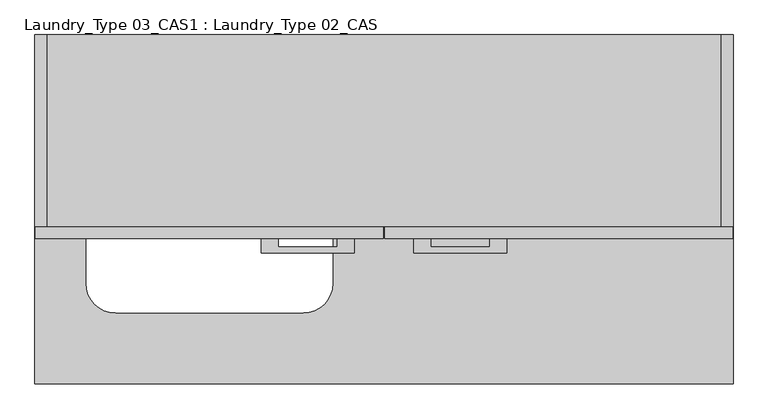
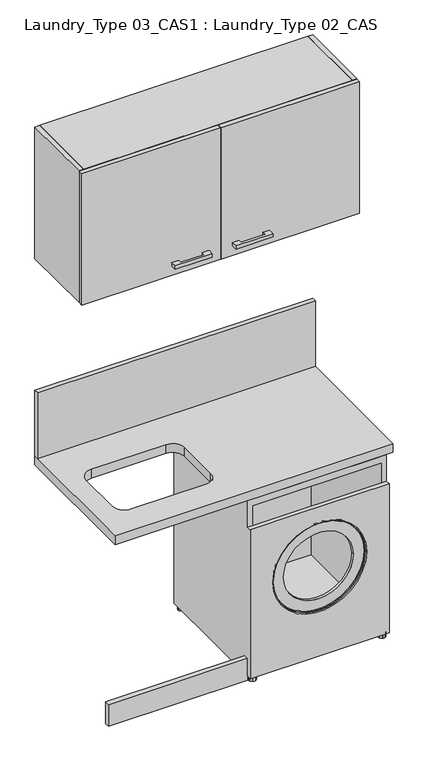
"""IFC4 building model written with IfcOpenShell, lengths in millimetres: furniture geometry, Laundry_Type 03_CAS1 : Laundry_Type 02_CAS."""

from ifc_helpers import new_model, si_unit, point, frame, frame_2d, origin, origin_with_axes, place, context, project, spatial, polyline, circle_curve, ellipse_curve, trimmed, segment, composite_curve, outline, extrude, source, transform, mapped, element, save
from ifc_brep_helpers import plane_surface, revolved_surface, advanced_brep


def laundry_type_03_cas1_laundry_type_02_cas_24b96e6a(model_context):
    return source(origin(), model_context, "Body", "SolidModel", [
        extrude(outline(composite_curve([segment(trimmed(circle_curve(frame_2d((1985.0, 20.085876)), 15.0), [point((1971.5385186, 26.7031653))], [point((1978.3827106, 33.5473574))], False, "CARTESIAN"), True, "CONTINUOUS"), segment(polyline([(1978.3827106, 33.5473574), (1979.3852847, 31.8108481)]), True, "CONTINUOUS"), segment(trimmed(circle_curve(frame_2d((1985.0, 20.085876)), 13.0), [point((1979.3852847, 31.8108481))], [point((1980.6793959, 32.3468865))], False, "CARTESIAN"), True, "CONTINUOUS"), segment(polyline([(1980.6793959, 32.3468865), (1980.1604254, 34.2837109)]), True, "CONTINUOUS"), segment(trimmed(circle_curve(frame_2d((1985.0, 20.085876)), 15.0), [point((1980.1604254, 34.2837109))], [point((1989.8395746, 34.2837109))], False, "CARTESIAN"), True, "CONTINUOUS"), segment(polyline([(1989.8395746, 34.2837109), (1989.3206041, 32.3468865)]), True, "CONTINUOUS"), segment(trimmed(circle_curve(frame_2d((1985.0, 20.085876)), 13.0), [point((1989.3206041, 32.3468865))], [point((1990.6147153, 31.8108481))], False, "CARTESIAN"), True, "CONTINUOUS"), segment(polyline([(1990.6147153, 31.8108481), (1991.6172894, 33.5473574)]), True, "CONTINUOUS"), segment(trimmed(circle_curve(frame_2d((1985.0, 20.085876)), 15.0), [point((1991.6172894, 33.5473574))], [point((1998.4614814, 26.7031653))], False, "CARTESIAN"), True, "CONTINUOUS"), segment(polyline([(1998.4614814, 26.7031653), (1996.7249722, 25.7005913)]), True, "CONTINUOUS"), segment(trimmed(circle_curve(frame_2d((1985.0, 20.085876)), 13.0), [point((1996.7249722, 25.7005913))], [point((1997.2610106, 24.40648))], False, "CARTESIAN"), True, "CONTINUOUS"), segment(polyline([(1997.2610106, 24.40648), (1999.197835, 24.9254506)]), True, "CONTINUOUS"), segment(trimmed(circle_curve(frame_2d((1985.0, 20.085876)), 15.0), [point((1999.197835, 24.9254506))], [point((1999.197835, 15.2463014))], False, "CARTESIAN"), True, "CONTINUOUS"), segment(polyline([(1999.197835, 15.2463014), (1997.2610106, 15.7652719)]), True, "CONTINUOUS"), segment(trimmed(circle_curve(frame_2d((1985.0, 20.085876)), 13.0), [point((1997.2610106, 15.7652719))], [point((1996.7249722, 14.4711607))], False, "CARTESIAN"), True, "CONTINUOUS"), segment(polyline([(1996.7249722, 14.4711607), (1998.4614814, 13.4685866)]), True, "CONTINUOUS"), segment(trimmed(circle_curve(frame_2d((1985.0, 20.085876)), 15.0), [point((1998.4614814, 13.4685866))], [point((1991.6172894, 6.6243946))], False, "CARTESIAN"), True, "CONTINUOUS"), segment(polyline([(1991.6172894, 6.6243946), (1990.6147153, 8.3609038)]), True, "CONTINUOUS"), segment(trimmed(circle_curve(frame_2d((1985.0, 20.085876)), 13.0), [point((1990.6147153, 8.3609038))], [point((1989.3206041, 7.8248654))], False, "CARTESIAN"), True, "CONTINUOUS"), segment(polyline([(1989.3206041, 7.8248654), (1989.8395746, 5.888041)]), True, "CONTINUOUS"), segment(trimmed(circle_curve(frame_2d((1985.0, 20.085876)), 15.0), [point((1989.8395746, 5.888041))], [point((1980.1604254, 5.888041))], False, "CARTESIAN"), True, "CONTINUOUS"), segment(polyline([(1980.1604254, 5.888041), (1980.6793959, 7.8248654)]), True, "CONTINUOUS"), segment(trimmed(circle_curve(frame_2d((1985.0, 20.085876)), 13.0), [point((1980.6793959, 7.8248654))], [point((1979.3852847, 8.3609038))], False, "CARTESIAN"), True, "CONTINUOUS"), segment(polyline([(1979.3852847, 8.3609038), (1978.3827106, 6.6243946)]), True, "CONTINUOUS"), segment(trimmed(circle_curve(frame_2d((1985.0, 20.085876)), 15.0), [point((1978.3827106, 6.6243946))], [point((1971.5385186, 13.4685866))], False, "CARTESIAN"), True, "CONTINUOUS"), segment(polyline([(1971.5385186, 13.4685866), (1973.2750278, 14.4711607)]), True, "CONTINUOUS"), segment(trimmed(circle_curve(frame_2d((1985.0, 20.085876)), 13.0), [point((1973.2750278, 14.4711607))], [point((1972.7389894, 15.7652719))], False, "CARTESIAN"), True, "CONTINUOUS"), segment(polyline([(1972.7389894, 15.7652719), (1970.802165, 15.2463014)]), True, "CONTINUOUS"), segment(trimmed(circle_curve(frame_2d((1985.0, 20.085876)), 15.0), [point((1970.802165, 15.2463014))], [point((1970.802165, 24.9254506))], False, "CARTESIAN"), True, "CONTINUOUS"), segment(polyline([(1970.802165, 24.9254506), (1972.7389894, 24.40648)]), True, "CONTINUOUS"), segment(trimmed(circle_curve(frame_2d((1985.0, 20.085876)), 13.0), [point((1972.7389894, 24.40648))], [point((1973.2750278, 25.7005913))], False, "CARTESIAN"), True, "CONTINUOUS"), segment(polyline([(1973.2750278, 25.7005913), (1971.5385186, 26.7031653)]), True, "CONTINUOUS")], self_intersect=False)), origin_with_axes(), (0.0, 0.0, 1.0), 20.0),
        extrude(outline(composite_curve([segment(trimmed(circle_curve(frame_2d((2545.0, 20.085876)), 15.0), [point((2531.5385186, 26.7031653))], [point((2538.3827106, 33.5473574))], False, "CARTESIAN"), True, "CONTINUOUS"), segment(polyline([(2538.3827106, 33.5473574), (2539.3852847, 31.8108481)]), True, "CONTINUOUS"), segment(trimmed(circle_curve(frame_2d((2545.0, 20.085876)), 13.0), [point((2539.3852847, 31.8108481))], [point((2540.6793959, 32.3468865))], False, "CARTESIAN"), True, "CONTINUOUS"), segment(polyline([(2540.6793959, 32.3468865), (2540.1604254, 34.2837109)]), True, "CONTINUOUS"), segment(trimmed(circle_curve(frame_2d((2545.0, 20.085876)), 15.0), [point((2540.1604254, 34.2837109))], [point((2549.8395746, 34.2837109))], False, "CARTESIAN"), True, "CONTINUOUS"), segment(polyline([(2549.8395746, 34.2837109), (2549.3206041, 32.3468865)]), True, "CONTINUOUS"), segment(trimmed(circle_curve(frame_2d((2545.0, 20.085876)), 13.0), [point((2549.3206041, 32.3468865))], [point((2550.6147153, 31.8108481))], False, "CARTESIAN"), True, "CONTINUOUS"), segment(polyline([(2550.6147153, 31.8108481), (2551.6172894, 33.5473574)]), True, "CONTINUOUS"), segment(trimmed(circle_curve(frame_2d((2545.0, 20.085876)), 15.0), [point((2551.6172894, 33.5473574))], [point((2558.4614814, 26.7031653))], False, "CARTESIAN"), True, "CONTINUOUS"), segment(polyline([(2558.4614814, 26.7031653), (2556.7249722, 25.7005913)]), True, "CONTINUOUS"), segment(trimmed(circle_curve(frame_2d((2545.0, 20.085876)), 13.0), [point((2556.7249722, 25.7005913))], [point((2557.2610106, 24.40648))], False, "CARTESIAN"), True, "CONTINUOUS"), segment(polyline([(2557.2610106, 24.40648), (2559.197835, 24.9254506)]), True, "CONTINUOUS"), segment(trimmed(circle_curve(frame_2d((2545.0, 20.085876)), 15.0), [point((2559.197835, 24.9254506))], [point((2559.197835, 15.2463014))], False, "CARTESIAN"), True, "CONTINUOUS"), segment(polyline([(2559.197835, 15.2463014), (2557.2610106, 15.7652719)]), True, "CONTINUOUS"), segment(trimmed(circle_curve(frame_2d((2545.0, 20.085876)), 13.0), [point((2557.2610106, 15.7652719))], [point((2556.7249722, 14.4711607))], False, "CARTESIAN"), True, "CONTINUOUS"), segment(polyline([(2556.7249722, 14.4711607), (2558.4614814, 13.4685866)]), True, "CONTINUOUS"), segment(trimmed(circle_curve(frame_2d((2545.0, 20.085876)), 15.0), [point((2558.4614814, 13.4685866))], [point((2551.6172894, 6.6243946))], False, "CARTESIAN"), True, "CONTINUOUS"), segment(polyline([(2551.6172894, 6.6243946), (2550.6147153, 8.3609038)]), True, "CONTINUOUS"), segment(trimmed(circle_curve(frame_2d((2545.0, 20.085876)), 13.0), [point((2550.6147153, 8.3609038))], [point((2549.3206041, 7.8248654))], False, "CARTESIAN"), True, "CONTINUOUS"), segment(polyline([(2549.3206041, 7.8248654), (2549.8395746, 5.888041)]), True, "CONTINUOUS"), segment(trimmed(circle_curve(frame_2d((2545.0, 20.085876)), 15.0), [point((2549.8395746, 5.888041))], [point((2540.1604254, 5.888041))], False, "CARTESIAN"), True, "CONTINUOUS"), segment(polyline([(2540.1604254, 5.888041), (2540.6793959, 7.8248654)]), True, "CONTINUOUS"), segment(trimmed(circle_curve(frame_2d((2545.0, 20.085876)), 13.0), [point((2540.6793959, 7.8248654))], [point((2539.3852847, 8.3609038))], False, "CARTESIAN"), True, "CONTINUOUS"), segment(polyline([(2539.3852847, 8.3609038), (2538.3827106, 6.6243946)]), True, "CONTINUOUS"), segment(trimmed(circle_curve(frame_2d((2545.0, 20.085876)), 15.0), [point((2538.3827106, 6.6243946))], [point((2531.5385186, 13.4685866))], False, "CARTESIAN"), True, "CONTINUOUS"), segment(polyline([(2531.5385186, 13.4685866), (2533.2750278, 14.4711607)]), True, "CONTINUOUS"), segment(trimmed(circle_curve(frame_2d((2545.0, 20.085876)), 13.0), [point((2533.2750278, 14.4711607))], [point((2532.7389894, 15.7652719))], False, "CARTESIAN"), True, "CONTINUOUS"), segment(polyline([(2532.7389894, 15.7652719), (2530.802165, 15.2463014)]), True, "CONTINUOUS"), segment(trimmed(circle_curve(frame_2d((2545.0, 20.085876)), 15.0), [point((2530.802165, 15.2463014))], [point((2530.802165, 24.9254506))], False, "CARTESIAN"), True, "CONTINUOUS"), segment(polyline([(2530.802165, 24.9254506), (2532.7389894, 24.40648)]), True, "CONTINUOUS"), segment(trimmed(circle_curve(frame_2d((2545.0, 20.085876)), 13.0), [point((2532.7389894, 24.40648))], [point((2533.2750278, 25.7005913))], False, "CARTESIAN"), True, "CONTINUOUS"), segment(polyline([(2533.2750278, 25.7005913), (2531.5385186, 26.7031653)]), True, "CONTINUOUS")], self_intersect=False)), origin_with_axes(), (0.0, 0.0, 1.0), 20.0),
        extrude(outline(composite_curve([segment(trimmed(circle_curve(frame_2d((2545.0, 550.085876)), 15.0), [point((2531.5385186, 556.7031653))], [point((2538.3827106, 563.5473574))], False, "CARTESIAN"), True, "CONTINUOUS"), segment(polyline([(2538.3827106, 563.5473574), (2539.3852847, 561.8108481)]), True, "CONTINUOUS"), segment(trimmed(circle_curve(frame_2d((2545.0, 550.085876)), 13.0), [point((2539.3852847, 561.8108481))], [point((2540.6793959, 562.3468865))], False, "CARTESIAN"), True, "CONTINUOUS"), segment(polyline([(2540.6793959, 562.3468865), (2540.1604254, 564.2837109)]), True, "CONTINUOUS"), segment(trimmed(circle_curve(frame_2d((2545.0, 550.085876)), 15.0), [point((2540.1604254, 564.2837109))], [point((2549.8395746, 564.2837109))], False, "CARTESIAN"), True, "CONTINUOUS"), segment(polyline([(2549.8395746, 564.2837109), (2549.3206041, 562.3468865)]), True, "CONTINUOUS"), segment(trimmed(circle_curve(frame_2d((2545.0, 550.085876)), 13.0), [point((2549.3206041, 562.3468865))], [point((2550.6147153, 561.8108481))], False, "CARTESIAN"), True, "CONTINUOUS"), segment(polyline([(2550.6147153, 561.8108481), (2551.6172894, 563.5473574)]), True, "CONTINUOUS"), segment(trimmed(circle_curve(frame_2d((2545.0, 550.085876)), 15.0), [point((2551.6172894, 563.5473574))], [point((2558.4614814, 556.7031653))], False, "CARTESIAN"), True, "CONTINUOUS"), segment(polyline([(2558.4614814, 556.7031653), (2556.7249722, 555.7005913)]), True, "CONTINUOUS"), segment(trimmed(circle_curve(frame_2d((2545.0, 550.085876)), 13.0), [point((2556.7249722, 555.7005913))], [point((2557.2610106, 554.40648))], False, "CARTESIAN"), True, "CONTINUOUS"), segment(polyline([(2557.2610106, 554.40648), (2559.197835, 554.9254506)]), True, "CONTINUOUS"), segment(trimmed(circle_curve(frame_2d((2545.0, 550.085876)), 15.0), [point((2559.197835, 554.9254506))], [point((2559.197835, 545.2463014))], False, "CARTESIAN"), True, "CONTINUOUS"), segment(polyline([(2559.197835, 545.2463014), (2557.2610106, 545.7652719)]), True, "CONTINUOUS"), segment(trimmed(circle_curve(frame_2d((2545.0, 550.085876)), 13.0), [point((2557.2610106, 545.7652719))], [point((2556.7249722, 544.4711607))], False, "CARTESIAN"), True, "CONTINUOUS"), segment(polyline([(2556.7249722, 544.4711607), (2558.4614814, 543.4685866)]), True, "CONTINUOUS"), segment(trimmed(circle_curve(frame_2d((2545.0, 550.085876)), 15.0), [point((2558.4614814, 543.4685866))], [point((2551.6172894, 536.6243946))], False, "CARTESIAN"), True, "CONTINUOUS"), segment(polyline([(2551.6172894, 536.6243946), (2550.6147153, 538.3609038)]), True, "CONTINUOUS"), segment(trimmed(circle_curve(frame_2d((2545.0, 550.085876)), 13.0), [point((2550.6147153, 538.3609038))], [point((2549.3206041, 537.8248654))], False, "CARTESIAN"), True, "CONTINUOUS"), segment(polyline([(2549.3206041, 537.8248654), (2549.8395746, 535.888041)]), True, "CONTINUOUS"), segment(trimmed(circle_curve(frame_2d((2545.0, 550.085876)), 15.0), [point((2549.8395746, 535.888041))], [point((2540.1604254, 535.888041))], False, "CARTESIAN"), True, "CONTINUOUS"), segment(polyline([(2540.1604254, 535.888041), (2540.6793959, 537.8248654)]), True, "CONTINUOUS"), segment(trimmed(circle_curve(frame_2d((2545.0, 550.085876)), 13.0), [point((2540.6793959, 537.8248654))], [point((2539.3852847, 538.3609038))], False, "CARTESIAN"), True, "CONTINUOUS"), segment(polyline([(2539.3852847, 538.3609038), (2538.3827106, 536.6243946)]), True, "CONTINUOUS"), segment(trimmed(circle_curve(frame_2d((2545.0, 550.085876)), 15.0), [point((2538.3827106, 536.6243946))], [point((2531.5385186, 543.4685866))], False, "CARTESIAN"), True, "CONTINUOUS"), segment(polyline([(2531.5385186, 543.4685866), (2533.2750278, 544.4711607)]), True, "CONTINUOUS"), segment(trimmed(circle_curve(frame_2d((2545.0, 550.085876)), 13.0), [point((2533.2750278, 544.4711607))], [point((2532.7389894, 545.7652719))], False, "CARTESIAN"), True, "CONTINUOUS"), segment(polyline([(2532.7389894, 545.7652719), (2530.802165, 545.2463014)]), True, "CONTINUOUS"), segment(trimmed(circle_curve(frame_2d((2545.0, 550.085876)), 15.0), [point((2530.802165, 545.2463014))], [point((2530.802165, 554.9254506))], False, "CARTESIAN"), True, "CONTINUOUS"), segment(polyline([(2530.802165, 554.9254506), (2532.7389894, 554.40648)]), True, "CONTINUOUS"), segment(trimmed(circle_curve(frame_2d((2545.0, 550.085876)), 13.0), [point((2532.7389894, 554.40648))], [point((2533.2750278, 555.7005913))], False, "CARTESIAN"), True, "CONTINUOUS"), segment(polyline([(2533.2750278, 555.7005913), (2531.5385186, 556.7031653)]), True, "CONTINUOUS")], self_intersect=False)), origin_with_axes(), (0.0, 0.0, 1.0), 20.0),
        extrude(outline(composite_curve([segment(trimmed(circle_curve(frame_2d((1985.0, 550.085876)), 15.0), [point((1971.5385186, 556.7031653))], [point((1978.3827106, 563.5473574))], False, "CARTESIAN"), True, "CONTINUOUS"), segment(polyline([(1978.3827106, 563.5473574), (1979.3852847, 561.8108481)]), True, "CONTINUOUS"), segment(trimmed(circle_curve(frame_2d((1985.0, 550.085876)), 13.0), [point((1979.3852847, 561.8108481))], [point((1980.6793959, 562.3468865))], False, "CARTESIAN"), True, "CONTINUOUS"), segment(polyline([(1980.6793959, 562.3468865), (1980.1604254, 564.2837109)]), True, "CONTINUOUS"), segment(trimmed(circle_curve(frame_2d((1985.0, 550.085876)), 15.0), [point((1980.1604254, 564.2837109))], [point((1989.8395746, 564.2837109))], False, "CARTESIAN"), True, "CONTINUOUS"), segment(polyline([(1989.8395746, 564.2837109), (1989.3206041, 562.3468865)]), True, "CONTINUOUS"), segment(trimmed(circle_curve(frame_2d((1985.0, 550.085876)), 13.0), [point((1989.3206041, 562.3468865))], [point((1990.6147153, 561.8108481))], False, "CARTESIAN"), True, "CONTINUOUS"), segment(polyline([(1990.6147153, 561.8108481), (1991.6172894, 563.5473574)]), True, "CONTINUOUS"), segment(trimmed(circle_curve(frame_2d((1985.0, 550.085876)), 15.0), [point((1991.6172894, 563.5473574))], [point((1998.4614814, 556.7031653))], False, "CARTESIAN"), True, "CONTINUOUS"), segment(polyline([(1998.4614814, 556.7031653), (1996.7249722, 555.7005913)]), True, "CONTINUOUS"), segment(trimmed(circle_curve(frame_2d((1985.0, 550.085876)), 13.0), [point((1996.7249722, 555.7005913))], [point((1997.2610106, 554.40648))], False, "CARTESIAN"), True, "CONTINUOUS"), segment(polyline([(1997.2610106, 554.40648), (1999.197835, 554.9254506)]), True, "CONTINUOUS"), segment(trimmed(circle_curve(frame_2d((1985.0, 550.085876)), 15.0), [point((1999.197835, 554.9254506))], [point((1999.197835, 545.2463014))], False, "CARTESIAN"), True, "CONTINUOUS"), segment(polyline([(1999.197835, 545.2463014), (1997.2610106, 545.7652719)]), True, "CONTINUOUS"), segment(trimmed(circle_curve(frame_2d((1985.0, 550.085876)), 13.0), [point((1997.2610106, 545.7652719))], [point((1996.7249722, 544.4711607))], False, "CARTESIAN"), True, "CONTINUOUS"), segment(polyline([(1996.7249722, 544.4711607), (1998.4614814, 543.4685866)]), True, "CONTINUOUS"), segment(trimmed(circle_curve(frame_2d((1985.0, 550.085876)), 15.0), [point((1998.4614814, 543.4685866))], [point((1991.6172894, 536.6243946))], False, "CARTESIAN"), True, "CONTINUOUS"), segment(polyline([(1991.6172894, 536.6243946), (1990.6147153, 538.3609038)]), True, "CONTINUOUS"), segment(trimmed(circle_curve(frame_2d((1985.0, 550.085876)), 13.0), [point((1990.6147153, 538.3609038))], [point((1989.3206041, 537.8248654))], False, "CARTESIAN"), True, "CONTINUOUS"), segment(polyline([(1989.3206041, 537.8248654), (1989.8395746, 535.888041)]), True, "CONTINUOUS"), segment(trimmed(circle_curve(frame_2d((1985.0, 550.085876)), 15.0), [point((1989.8395746, 535.888041))], [point((1980.1604254, 535.888041))], False, "CARTESIAN"), True, "CONTINUOUS"), segment(polyline([(1980.1604254, 535.888041), (1980.6793959, 537.8248654)]), True, "CONTINUOUS"), segment(trimmed(circle_curve(frame_2d((1985.0, 550.085876)), 13.0), [point((1980.6793959, 537.8248654))], [point((1979.3852847, 538.3609038))], False, "CARTESIAN"), True, "CONTINUOUS"), segment(polyline([(1979.3852847, 538.3609038), (1978.3827106, 536.6243946)]), True, "CONTINUOUS"), segment(trimmed(circle_curve(frame_2d((1985.0, 550.085876)), 15.0), [point((1978.3827106, 536.6243946))], [point((1971.5385186, 543.4685866))], False, "CARTESIAN"), True, "CONTINUOUS"), segment(polyline([(1971.5385186, 543.4685866), (1973.2750278, 544.4711607)]), True, "CONTINUOUS"), segment(trimmed(circle_curve(frame_2d((1985.0, 550.085876)), 13.0), [point((1973.2750278, 544.4711607))], [point((1972.7389894, 545.7652719))], False, "CARTESIAN"), True, "CONTINUOUS"), segment(polyline([(1972.7389894, 545.7652719), (1970.802165, 545.2463014)]), True, "CONTINUOUS"), segment(trimmed(circle_curve(frame_2d((1985.0, 550.085876)), 15.0), [point((1970.802165, 545.2463014))], [point((1970.802165, 554.9254506))], False, "CARTESIAN"), True, "CONTINUOUS"), segment(polyline([(1970.802165, 554.9254506), (1972.7389894, 554.40648)]), True, "CONTINUOUS"), segment(trimmed(circle_curve(frame_2d((1985.0, 550.085876)), 13.0), [point((1972.7389894, 554.40648))], [point((1973.2750278, 555.7005913))], False, "CARTESIAN"), True, "CONTINUOUS"), segment(polyline([(1973.2750278, 555.7005913), (1971.5385186, 556.7031653)]), True, "CONTINUOUS")], self_intersect=False)), origin_with_axes(), (0.0, 0.0, 1.0), 20.0),
        advanced_brep(
        [(2545.0, 550.085876, 790.0), (1985.0, 550.085876, 790.0), (1985.0, 550.085876, 50.0), (2545.0, 550.085876, 50.0), (1965.0, 570.085876, 820.0), (2565.0, 570.085876, 820.0), (2565.0, 570.085876, 20.0), (1965.0, 570.085876, 20.0), (1965.0, 0.085876, 20.0), (1965.0, 0.085876, 700.0), (1965.0, 2.027875, 700.0), (1965.0, 20.085876, 700.0), (1965.0, 20.085876, 820.0), (2565.0, 0.085876, 20.0), (2565.0, 20.085876, 820.0), (2565.0, 20.085876, 700.0), (2565.0, 2.027875, 700.0), (2565.0, 0.085876, 700.0), (1985.0, 20.085876, 700.0), (1985.0, 20.085876, 790.0), (2545.0, 20.085876, 790.0), (2545.0, 20.085876, 700.0), (2545.0, 20.085876, 50.0), (1985.0, 20.085876, 50.0), (2115.0, 20.085876, 425.0), (2415.0, 20.085876, 425.0), (2165.0, 0.085876, 700.0), (2467.5, 0.085876, 425.0), (2062.5, 0.085876, 425.0), (2115.0, 10.085876, 425.0), (2415.0, 10.085876, 425.0), (2065.0, 2.585876, 425.0), (2465.0, 2.585876, 425.0), (2465.0, 7.585876, 425.0), (2065.0, 7.585876, 425.0), (2462.5, 10.085876, 425.0), (2067.5, 10.085876, 425.0)],
        [
            (0, 1),
            (1, 2),
            (2, 3),
            (3, 0),
            (4, 5),
            (5, 6),
            (6, 7),
            (7, 4),
            (7, 8),
            (8, 9),
            (9, 10),
            (10, 11),
            (11, 12),
            (12, 4),
            (6, 13),
            (13, 8),
            (5, 14),
            (14, 15),
            (15, 16),
            (16, 17),
            (17, 13),
            (12, 14),
            (11, 18),
            (18, 19),
            (19, 20),
            (20, 21),
            (21, 15),
            (19, 1),
            (0, 20),
            (3, 22),
            (22, 21),
            (2, 23),
            (23, 22),
            (18, 23),
            (18, 21),
            (24, 25, circle_curve(frame((2265.0, 20.085876, 425.0), z_axis=(0.0, -1.0, 0.0), x_axis=(1.0, 0.0, 0.0)), 150.0)),
            (25, 24, circle_curve(frame((2265.0, 20.085876, 425.0), z_axis=(0.0, -1.0, 0.0), x_axis=(1.0, 0.0, 0.0)), 150.0)),
            (17, 26),
            (26, 9),
            (27, 28, circle_curve(frame((2265.0, 0.085876, 425.0), z_axis=(0.0, 1.0, 0.0), x_axis=(1.0, 0.0, 0.0)), 202.5)),
            (28, 27, circle_curve(frame((2265.0, 0.085876, 425.0), z_axis=(0.0, 1.0, 0.0), x_axis=(-1.0, 0.0, 0.0)), 202.5)),
            (24, 29),
            (29, 30, circle_curve(frame((2265.0, 10.085876, 425.0), z_axis=(0.0, -1.0, 0.0), x_axis=(1.0, 0.0, 0.0)), 150.0)),
            (30, 25),
            (30, 29, circle_curve(frame((2265.0, 10.085876, 425.0), z_axis=(0.0, -1.0, 0.0), x_axis=(1.0, 0.0, 0.0)), 150.0)),
            (31, 28, circle_curve(frame((2062.5, 2.585876, 425.0), z_axis=(0.0, 0.0, -1.0), x_axis=(1.0, 0.0, 0.0)), 2.5)),
            (27, 32, circle_curve(frame((2467.5, 2.585876, 425.0), z_axis=(0.0, 0.0, -1.0), x_axis=(-1.0, 0.0, 0.0)), 2.5)),
            (32, 31, circle_curve(frame((2265.0, 2.585876, 425.0), z_axis=(0.0, 1.0, 0.0), x_axis=(1.0, 0.0, 0.0)), 200.0)),
            (32, 33),
            (33, 34, circle_curve(frame((2265.0, 7.585876, 425.0), z_axis=(0.0, 1.0, 0.0), x_axis=(1.0, 0.0, 0.0)), 200.0)),
            (34, 31),
            (33, 35, circle_curve(frame((2462.5, 7.585876, 425.0), z_axis=(0.0, 0.0, 1.0), x_axis=(-1.0, 0.0, 0.0)), 2.5)),
            (35, 36, circle_curve(frame((2265.0, 10.085876, 425.0), z_axis=(0.0, 1.0, 0.0), x_axis=(1.0, 0.0, 0.0)), 197.5)),
            (36, 34, circle_curve(frame((2067.5, 7.585876, 425.0), z_axis=(0.0, 0.0, 1.0), x_axis=(1.0, 0.0, 0.0)), 2.5)),
            (31, 32, circle_curve(frame((2265.0, 2.585876, 425.0), z_axis=(0.0, 1.0, 0.0), x_axis=(-1.0, 0.0, 0.0)), 200.0)),
            (34, 33, circle_curve(frame((2265.0, 7.585876, 425.0), z_axis=(0.0, 1.0, 0.0), x_axis=(-1.0, 0.0, 0.0)), 200.0)),
            (36, 35, circle_curve(frame((2265.0, 10.085876, 425.0), z_axis=(0.0, 1.0, 0.0), x_axis=(-1.0, 0.0, 0.0)), 197.5)),
        ],
        [
            plane_surface(frame((1965.0, 550.085876, 820.0), z_axis=(0.0, -1.0, 0.0), x_axis=(0.0, 0.0, -1.0))),
            plane_surface(frame((1965.0, 570.085876, 820.0), z_axis=(0.0, 1.0, 0.0), x_axis=(0.0, 0.0, 1.0))),
            plane_surface(frame((1965.0, 550.085876, 820.0), z_axis=(-1.0, 0.0, 0.0), x_axis=(0.0, 1.0, 0.0))),
            plane_surface(frame((1965.0, 550.085876, 20.0), z_axis=(0.0, 0.0, -1.0), x_axis=(0.0, 1.0, 0.0))),
            plane_surface(frame((2565.0, 550.085876, 20.0), z_axis=(1.0, 0.0, 0.0), x_axis=(0.0, 1.0, 0.0))),
            plane_surface(frame((2565.0, 550.085876, 820.0), z_axis=(0.0, 0.0, 1.0), x_axis=(0.0, 1.0, 0.0))),
            plane_surface(frame((1965.0, 20.085876, 820.0), z_axis=(0.0, -1.0, 0.0), x_axis=(-1.0, 0.0, 0.0))),
            plane_surface(frame((1985.0, 20.085876, 790.0), z_axis=(0.0, 0.0, -1.0), x_axis=(0.0, 1.0, 0.0))),
            plane_surface(frame((2545.0, 20.085876, 790.0), z_axis=(-1.0, 0.0, 0.0), x_axis=(0.0, 1.0, 0.0))),
            plane_surface(frame((2545.0, 20.085876, 50.0), z_axis=(0.0, 0.0, 1.0), x_axis=(0.0, 1.0, 0.0))),
            plane_surface(frame((1985.0, 20.085876, 50.0), z_axis=(1.0, 0.0, 0.0), x_axis=(0.0, 1.0, 0.0))),
            plane_surface(frame((2565.0, 20.085876, 700.0), z_axis=(0.0, 1.0, 0.0), x_axis=(1.0, 0.0, 0.0))),
            plane_surface(frame((2565.0, 0.085876, 700.0), z_axis=(0.0, -1.0, 0.0), x_axis=(-1.0, 0.0, 0.0))),
            plane_surface(frame((1965.0, 20.085876, 700.0), z_axis=(0.0, 0.0, 1.0), x_axis=(0.0, -1.0, 0.0))),
            revolved_surface(polyline([(2415.0, 10.085876, 425.0), (2415.0, 20.085876, 425.0)]), (2265.0, 20.085876, 425.0), (0.0, -1.0, 0.0)),
            revolved_surface(trimmed(ellipse_curve(frame((2467.5, 2.585876, 425.0), z_axis=(0.0, 0.0, 1.0), x_axis=(-1.0, 0.0, 0.0)), 2.5, 2.5), [point((2465.0, 2.585876, 425.0))], [point((2467.5, 0.085876, 425.0))], True, "CARTESIAN"), (2265.0, 0.085876, 425.0), (0.0, 1.0, 0.0)),
            revolved_surface(polyline([(2465.0, 7.585876, 425.0), (2465.0, 2.585876, 425.0)]), (2265.0, 0.085876, 425.0), (0.0, 1.0, 0.0)),
            revolved_surface(trimmed(ellipse_curve(frame((2462.5, 7.585876, 425.0), z_axis=(0.0, 0.0, -1.0), x_axis=(-1.0, 0.0, 0.0)), 2.5, 2.5), [point((2462.5, 10.085876, 425.0))], [point((2465.0, 7.585876, 425.0))], True, "CARTESIAN"), (2265.0, 0.085876, 425.0), (0.0, 1.0, 0.0)),
            revolved_surface(trimmed(ellipse_curve(frame((2062.5, 2.585876, 425.0), z_axis=(0.0, 0.0, -1.0), x_axis=(1.0, 0.0, 0.0)), 2.5, 2.5), [point((2065.0, 2.585876, 425.0))], [point((2062.5, 0.085876, 425.0))], True, "CARTESIAN"), (2265.0, 0.085876, 425.0), (0.0, 1.0, 0.0)),
            revolved_surface(polyline([(2065.0, 7.585876, 425.0), (2065.0, 2.585876, 425.0)]), (2265.0, 0.085876, 425.0), (0.0, 1.0, 0.0)),
            revolved_surface(trimmed(ellipse_curve(frame((2067.5, 7.585876, 425.0), z_axis=(0.0, 0.0, 1.0), x_axis=(1.0, 0.0, 0.0)), 2.5, 2.5), [point((2067.5, 10.085876, 425.0))], [point((2065.0, 7.585876, 425.0))], True, "CARTESIAN"), (2265.0, 0.085876, 425.0), (0.0, 1.0, 0.0)),
            plane_surface(frame((2265.0, 10.085876, 425.0), z_axis=(0.0, -1.0, 0.0), x_axis=(-1.0, 0.0, 0.0))),
        ],
        [
            (0, [[1, 2, 3, 4]]),
            (1, [[5, 6, 7, 8]]),
            (2, [[-8, 9, 10, 11, 12, 13, 14]]),
            (3, [[-7, 15, 16, -9]]),
            (4, [[-6, 17, 18, 19, 20, 21, -15]]),
            (5, [[-5, -14, 22, -17]]),
            (6, [[-22, -13, 23, 24, 25, 26, 27, -18]]),
            (7, [[-25, 28, -1, 29]]),
            (8, [[-29, -4, 30, 31, -26]]),
            (9, [[-30, -3, 32, 33]]),
            (10, [[-28, -24, 34, -32, -2]]),
            (11, [[35, -31, -33, -34], [36, 37]]),
            (12, [[-10, -16, -21, 38, 39], [40, 41]]),
            (13, [[-35, -23, -12, -11, -39, -38, -20, -19, -27]]),
            (14, [[-36, 42, 43, 44]]),
            (14, [[-37, -44, 45, -42]]),
            (15, [[46, -40, 47, 48]]),
            (16, [[-48, 49, 50, 51]]),
            (17, [[-50, 52, 53, 54]]),
            (18, [[-46, 55, -47, -41]]),
            (19, [[-51, 56, -49, -55]]),
            (20, [[-54, 57, -52, -56]]),
            (21, [[-53, -57], [-43, -45]]),
        ],
    ),
        extrude(outline(polyline([(1914.0, 196.960876), (1754.0, 196.960876), (1754.0, 221.960876), (1783.0, 221.960876), (1783.0, 206.960876), (1885.0, 206.960876), (1885.0, 221.960876), (1914.0, 221.960876), (1914.0, 196.960876)])), frame((0.0, 0.0, 1842.5), z_axis=(0.0, 0.0, 1.0), x_axis=(1.0, 0.0, 0.0)), (0.0, 0.0, 1.0), 15.0),
        extrude(outline(polyline([(1366.0, 221.960876), (1366.0, 241.960876), (1964.0, 241.960876), (1964.0, 221.960876), (1366.0, 221.960876)])), frame((0.0, 0.0, 1800.0), z_axis=(0.0, 0.0, 1.0), x_axis=(1.0, 0.0, 0.0)), (0.0, 0.0, 1.0), 599.0),
        extrude(outline(polyline([(2016.0, 196.960876), (2016.0, 221.960876), (2045.0, 221.960876), (2045.0, 206.960876), (2147.0, 206.960876), (2147.0, 221.960876), (2176.0, 221.960876), (2176.0, 196.960876), (2016.0, 196.960876)])), frame((0.0, 0.0, 1842.5), z_axis=(0.0, 0.0, 1.0), x_axis=(1.0, 0.0, 0.0)), (0.0, 0.0, 1.0), 15.0),
        extrude(outline(polyline([(2564.0, 221.960876), (1966.0, 221.960876), (1966.0, 241.960876), (2564.0, 241.960876), (2564.0, 221.960876)])), frame((0.0, 0.0, 1800.0), z_axis=(0.0, 0.0, 1.0), x_axis=(1.0, 0.0, 0.0)), (0.0, 0.0, 1.0), 599.0),
        extrude(outline(polyline([(2545.0, 571.960876), (2565.0, 571.960876), (2565.0, 241.960876), (2545.0, 241.960876), (2545.0, 571.960876)])), frame((0.0, 0.0, 1800.0), z_axis=(0.0, 0.0, 1.0), x_axis=(1.0, 0.0, 0.0)), (0.0, 0.0, 1.0), 600.0),
        extrude(outline(polyline([(1365.0, 571.960876), (1385.0, 571.960876), (1385.0, 241.960876), (1365.0, 241.960876), (1365.0, 571.960876)])), frame((0.0, 0.0, 1800.0), z_axis=(0.0, 0.0, 1.0), x_axis=(1.0, 0.0, 0.0)), (0.0, 0.0, 1.0), 600.0),
        extrude(outline(polyline([(2545.0, 551.960876), (1385.0, 551.960876), (1385.0, 571.960876), (2545.0, 571.960876), (2545.0, 551.960876)])), frame((0.0, 0.0, 1800.0), z_axis=(0.0, 0.0, 1.0), x_axis=(1.0, 0.0, 0.0)), (0.0, 0.0, 1.0), 580.0),
        extrude(outline(polyline([(2545.0, 551.960876), (2545.0, 241.960876), (1385.0, 241.960876), (1385.0, 551.960876), (2545.0, 551.960876)])), frame((0.0, 0.0, 1800.0), z_axis=(0.0, 0.0, 1.0), x_axis=(1.0, 0.0, 0.0)), (0.0, 0.0, 1.0), 20.0),
        extrude(outline(polyline([(2545.0, 571.960876), (2545.0, 241.960876), (1385.0, 241.960876), (1385.0, 571.960876), (2545.0, 571.960876)])), frame((0.0, 0.0, 2380.0), z_axis=(0.0, 0.0, 1.0), x_axis=(1.0, 0.0, 0.0)), (0.0, 0.0, 1.0), 20.0),
        extrude(outline(polyline([(2565.0, 551.960876), (1365.0, 551.960876), (1365.0, 571.960876), (2565.0, 571.960876), (2565.0, 551.960876)])), frame((0.0, 0.0, 900.0), z_axis=(0.0, 0.0, 1.0), x_axis=(1.0, 0.0, 0.0)), (0.0, 0.0, 1.0), 300.0),
        extrude(outline(polyline([(1965.0, 21.960876), (1365.0, 21.960876), (1365.0, 41.960876), (1965.0, 41.960876), (1965.0, 21.960876)])), origin_with_axes(), (0.0, 0.0, 1.0), 100.0),
        extrude(outline(polyline([(2565.0, 571.960876), (2565.0, -28.039124), (1365.0, -28.039124), (1365.0, 571.960876), (2565.0, 571.960876)]), holes=[composite_curve([segment(trimmed(circle_curve(frame_2d((1503.9, 339.7092896)), 50.8), [point((1503.9, 390.5092896))], [point((1453.1, 339.7092896))], True, "CARTESIAN"), True, "CONTINUOUS"), segment(polyline([(1453.1, 339.7092896), (1453.1, 144.3382068)]), True, "CONTINUOUS"), segment(trimmed(circle_curve(frame_2d((1503.9, 144.3382068)), 50.8), [point((1453.1, 144.3382068))], [point((1503.9, 93.5382068))], True, "CARTESIAN"), True, "CONTINUOUS"), segment(polyline([(1503.9, 93.5382068), (1826.1, 93.5382068)]), True, "CONTINUOUS"), segment(trimmed(circle_curve(frame_2d((1826.1, 144.3382068)), 50.8), [point((1826.1, 93.5382068))], [point((1876.9, 144.3382068))], True, "CARTESIAN"), True, "CONTINUOUS"), segment(polyline([(1876.9, 144.3382068), (1876.9, 339.7092896)]), True, "CONTINUOUS"), segment(trimmed(circle_curve(frame_2d((1826.1, 339.7092896)), 50.8), [point((1876.9, 339.7092896))], [point((1826.1, 390.5092896))], True, "CARTESIAN"), True, "CONTINUOUS"), segment(polyline([(1826.1, 390.5092896), (1503.9, 390.5092896)]), True, "CONTINUOUS")], self_intersect=False)]), frame((0.0, 0.0, 860.0), z_axis=(0.0, 0.0, 1.0), x_axis=(1.0, 0.0, 0.0)), (0.0, 0.0, 1.0), 40.0),
    ])


if __name__ == "__main__":
    model = new_model("IFC4")
    model_context = context("Model", 3, world=origin())
    ifc_project = project(units=[si_unit("LENGTHUNIT", "METRE", prefix="MILLI")], contexts=[model_context])
    site = spatial("IfcSite", under=ifc_project)
    building = spatial("IfcBuilding", under=site)
    placement = place(None, origin())
    laundry_type_03_cas1_laundry_type_02_cas_shape = laundry_type_03_cas1_laundry_type_02_cas_24b96e6a(model_context)
    element("IfcFurniture", 1, ObjectType="Laundry_Type 03_CAS1 : Laundry_Type 02_CAS", at=placement, inside=building, context=model_context, shape_type="MappedRepresentation", body=[
        mapped(laundry_type_03_cas1_laundry_type_02_cas_shape, transform((0.0, 0.0, 0.0), x_axis=(1.0, 0.0, 0.0), y_axis=(0.0, 1.0, 0.0), z_axis=(0.0, 0.0, 1.0))),
    ])
    save(model, "model.ifc")
